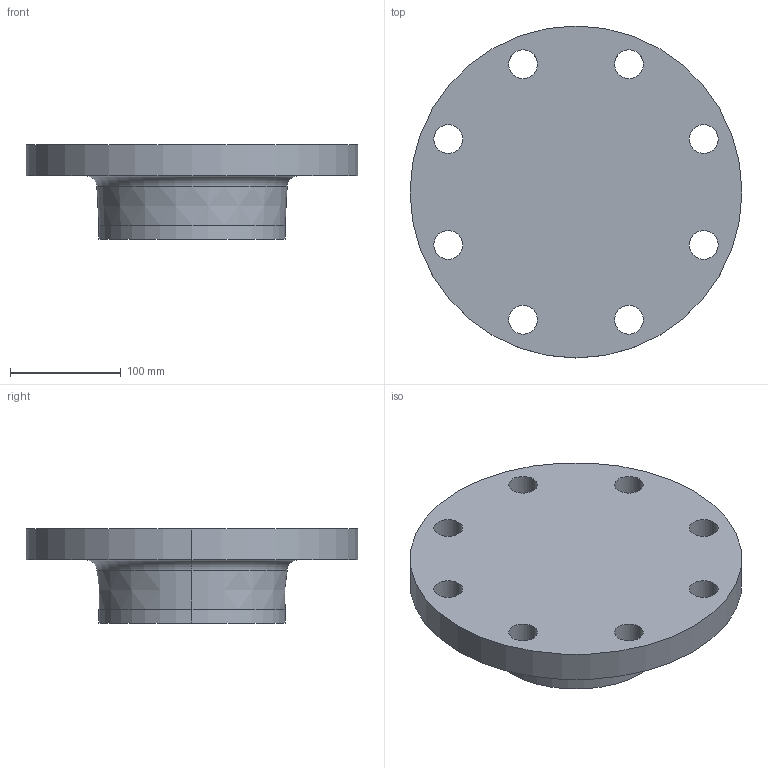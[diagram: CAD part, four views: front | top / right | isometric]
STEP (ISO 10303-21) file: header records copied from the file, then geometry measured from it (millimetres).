
FILE_DESCRIPTION (( 'STEP AP214' ), '1' );
FILE_NAME ('PN40 DN150 Type 21(ii) - Type A Face.STEP', '2019-01-02T23:18:35', ( '' ), ( '' ), 'SwSTEP 2.0', 'SolidWorks 2019', '' );
FILE_SCHEMA (( 'AUTOMOTIVE_DESIGN' ));
Length unit declared in the file: millimetre
Products named in the file (1): PN40 DN150 Type 21(ii) - Type A Face
Bounding box: 300 x 300 x 85 mm (x, y, z)
Volume: 3167083.5 mm3; surface area: 204779.5 mm2
Topology: 1 solids, 1 shells, 29 faces, 72 edges, 46 vertices
Faces by surface type: cylinder 20, torus 4, plane 3, cone 2
Entity records: 954 total; most frequent: DIRECTION 182, CARTESIAN_POINT 148, ORIENTED_EDGE 144, AXIS2_PLACEMENT_3D 80, EDGE_CURVE 72, CIRCLE 50, VERTEX_POINT 46, EDGE_LOOP 46
